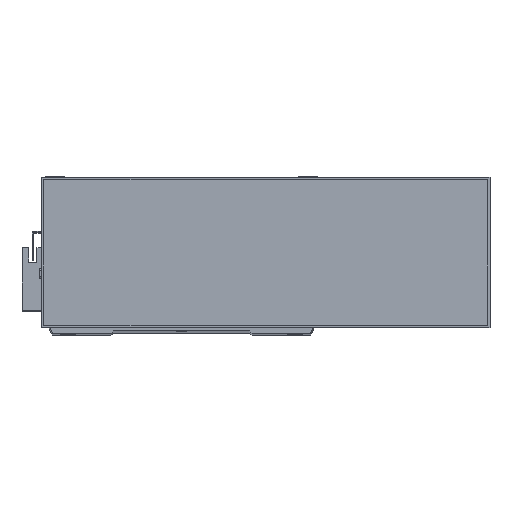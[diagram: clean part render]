
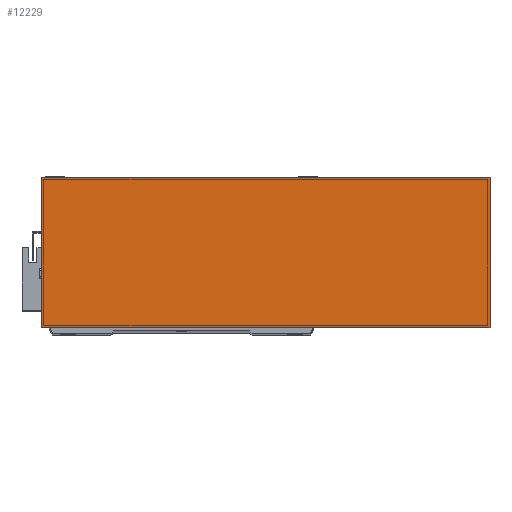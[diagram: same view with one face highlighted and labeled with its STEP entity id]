
A CAD part, top view. The second image highlights one B-rep face of the part: STEP entity #12229.
In plain terms, the highlighted planar face has unit normal (0, 0, 1).
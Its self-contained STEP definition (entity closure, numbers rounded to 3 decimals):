
#583 = VERTEX_POINT ( 'NONE', #628 ) ;
#597 = CARTESIAN_POINT ( 'NONE',  ( 277., 0., 50. ) ) ;
#628 = CARTESIAN_POINT ( 'NONE',  ( 0., 93., 50. ) ) ;
#1003 = AXIS2_PLACEMENT_3D ( 'NONE', #6910, #22044, #9126 ) ;
#2808 = EDGE_CURVE ( 'NONE', #3858, #8857, #5213, .T. ) ;
#3772 = LINE ( 'NONE', #18137, #8918 ) ;
#3858 = VERTEX_POINT ( 'NONE', #8283 ) ;
#4334 = VECTOR ( 'NONE', #6573, 1000. ) ;
#5213 = LINE ( 'NONE', #11127, #15383 ) ;
#6392 = CARTESIAN_POINT ( 'NONE',  ( 277., 0., 50. ) ) ;
#6573 = DIRECTION ( 'NONE',  ( 0., 1., 0. ) ) ;
#6647 = EDGE_CURVE ( 'NONE', #8857, #13413, #25972, .T. ) ;
#6910 = CARTESIAN_POINT ( 'NONE',  ( 0., 0., 50. ) ) ;
#7298 = DIRECTION ( 'NONE',  ( -1., 0., 0. ) ) ;
#7340 = LINE ( 'NONE', #20238, #12373 ) ;
#8283 = CARTESIAN_POINT ( 'NONE',  ( 0., 0., 50. ) ) ;
#8857 = VERTEX_POINT ( 'NONE', #597 ) ;
#8918 = VECTOR ( 'NONE', #20328, 1000. ) ;
#9126 = DIRECTION ( 'NONE',  ( -1., 0., 0. ) ) ;
#9787 = EDGE_LOOP ( 'NONE', ( #11724, #10755, #19491, #21220 ) ) ;
#10755 = ORIENTED_EDGE ( 'NONE', *, *, #2808, .T. ) ;
#10777 = CARTESIAN_POINT ( 'NONE',  ( 277., 93., 50. ) ) ;
#11033 = DIRECTION ( 'NONE',  ( 1., 0., 0. ) ) ;
#11127 = CARTESIAN_POINT ( 'NONE',  ( 0., 0., 50. ) ) ;
#11724 = ORIENTED_EDGE ( 'NONE', *, *, #27396, .T. ) ;
#12229 = ADVANCED_FACE ( 'NONE', ( #14978 ), #17668, .F. ) ;
#12373 = VECTOR ( 'NONE', #7298, 1000. ) ;
#13413 = VERTEX_POINT ( 'NONE', #10777 ) ;
#14978 = FACE_OUTER_BOUND ( 'NONE', #9787, .T. ) ;
#15383 = VECTOR ( 'NONE', #11033, 1000. ) ;
#16973 = EDGE_CURVE ( 'NONE', #13413, #583, #7340, .T. ) ;
#17668 = PLANE ( 'NONE',  #1003 ) ;
#18137 = CARTESIAN_POINT ( 'NONE',  ( 0., 0., 50. ) ) ;
#19491 = ORIENTED_EDGE ( 'NONE', *, *, #6647, .T. ) ;
#20238 = CARTESIAN_POINT ( 'NONE',  ( 0., 93., 50. ) ) ;
#20328 = DIRECTION ( 'NONE',  ( 0., -1., 0. ) ) ;
#21220 = ORIENTED_EDGE ( 'NONE', *, *, #16973, .T. ) ;
#22044 = DIRECTION ( 'NONE',  ( 0., 0., -1. ) ) ;
#25972 = LINE ( 'NONE', #6392, #4334 ) ;
#27396 = EDGE_CURVE ( 'NONE', #583, #3858, #3772, .T. ) ;
